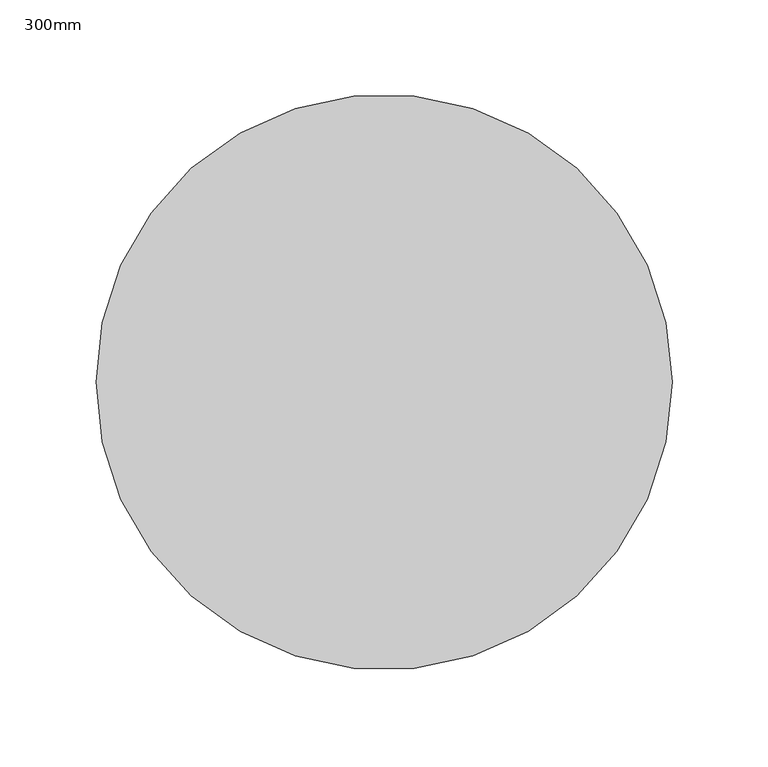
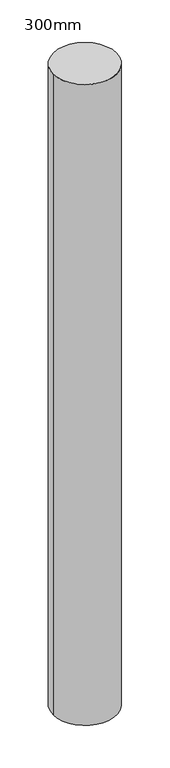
"""IFC4 building model written with IfcOpenShell, lengths in millimetres: column geometry, Poteau béton - Arrondi : 300mm."""

from ifc_helpers import new_model, si_unit, point, frame, origin, origin_2d, place, context, project, spatial, circle_curve, trimmed, segment, composite_curve, outline, extrude, source, transform, mapped, element, save


def column_300mm_55771762(model_context):
    return source(origin(), model_context, "Body", "SweptSolid", [
        extrude(outline(composite_curve([segment(trimmed(circle_curve(origin_2d(), 150.0), [point((-150.0, 0.0))], [point((150.0, 0.0))], False, "CARTESIAN"), True, "CONTINUOUS"), segment(trimmed(circle_curve(origin_2d(), 150.0), [point((150.0, 0.0))], [point((-150.0, 0.0))], False, "CARTESIAN"), True, "CONTINUOUS")], self_intersect=False)), frame((0.0, 0.0, 3750.0), z_axis=(0.0, 0.0, 1.0), x_axis=(1.0, 0.0, 0.0)), (0.0, 0.0, 1.0), 3200.0),
    ])


if __name__ == "__main__":
    model = new_model("IFC4")
    model_context = context("Model", 3, world=origin())
    ifc_project = project(units=[si_unit("LENGTHUNIT", "METRE", prefix="MILLI")], contexts=[model_context])
    site = spatial("IfcSite", under=ifc_project)
    building = spatial("IfcBuilding", under=site)
    placement = place(None, origin())
    column_300mm_shape = column_300mm_55771762(model_context)
    element("IfcColumn", 1, ObjectType="Poteau béton - Arrondi : 300mm", at=placement, inside=building, context=model_context, shape_type="MappedRepresentation", body=[
        mapped(column_300mm_shape, transform((0.0, 0.0, 0.0), x_axis=(1.0, 0.0, 0.0), y_axis=(0.0, 1.0, 0.0), z_axis=(0.0, 0.0, 1.0))),
    ])
    save(model, "model.ifc")
